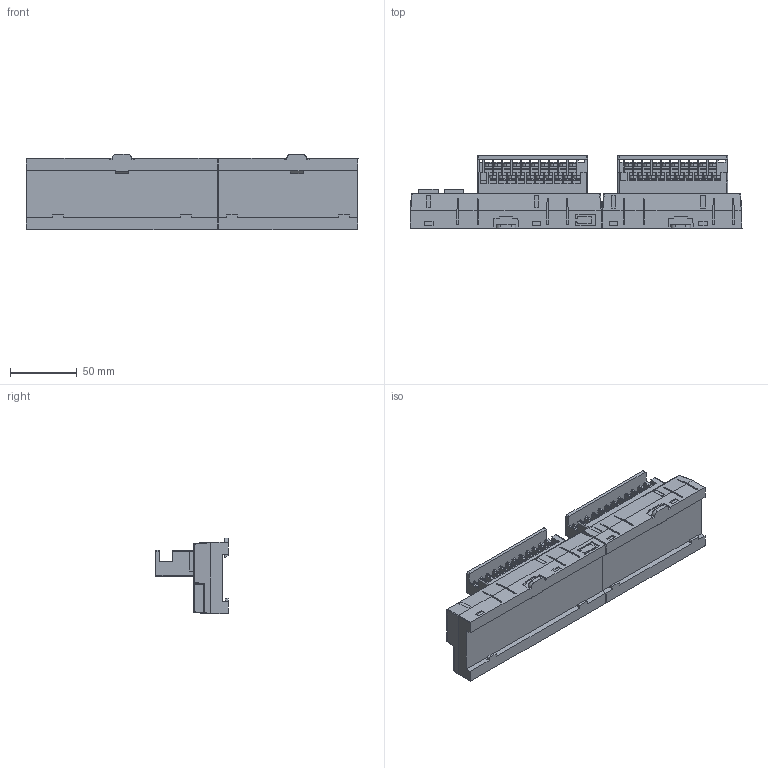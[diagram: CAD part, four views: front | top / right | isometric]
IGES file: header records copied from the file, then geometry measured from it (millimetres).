
Start section: SolidWorks IGES file using analytic representation for surfaces
Global section: file name: C:\Users\kawanishi.SHINKO-TECHNOS\かわにし\3D データ\RG-CU\Dxx-xxx\HP_3D\RG-CU_iges\RG-CU-32_221114.IGS; native system: SolidWorks 2022; preprocessor: SolidWorks 2022; author: kawanishi; date: 251119.152639; units: millimetre
Bounding box: 249.22 x 54.3 x 57.01 mm (x, y, z)
Surface area: 79001.6 mm2 (no closed solid volume)
Topology: 0 solids, 0 shells, 2070 faces, 17714 edges, 17714 vertices
Faces by surface type: bspline 1826, revolution 244
